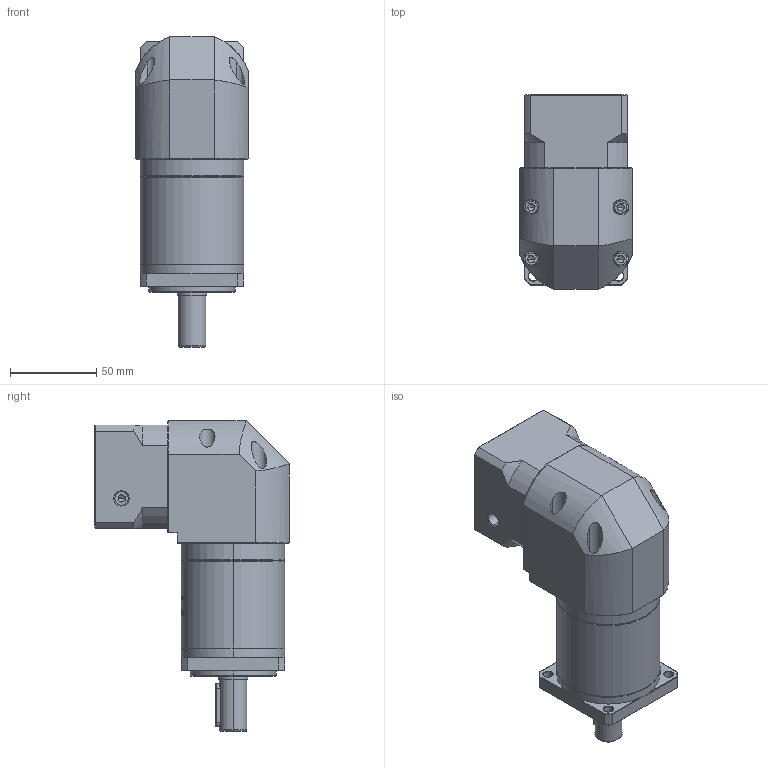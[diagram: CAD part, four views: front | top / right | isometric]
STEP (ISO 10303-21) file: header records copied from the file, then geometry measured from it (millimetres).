
FILE_DESCRIPTION (( 'STEP AP214' ), '1' );
FILE_NAME ('ZFR060-D16-L2-P2-8-30-46-M4.step', '2023-08-17T03:35:26', ( '' ), ( '' ), 'SwSTEP 2.0', 'SolidWorks 2016', '' );
FILE_SCHEMA (( 'AUTOMOTIVE_DESIGN' ));
Length unit declared in the file: millimetre
Products named in the file (1): ZFR060-D16-L2-P2-8-30-46-M4
Bounding box: 65 x 112.7 x 180 mm (x, y, z)
Volume: 595233.9 mm3; surface area: 83585.2 mm2
Topology: 5 solids, 6 shells, 1966 faces, 5287 edges, 3423 vertices
Faces by surface type: plane 845, bspline 418, cylinder 391, cone 288, torus 24
Entity records: 124162 total; most frequent: CARTESIAN_POINT 57914, ORIENTED_EDGE 10546, DIRECTION 7643, EDGE_CURVE 5273, VERTEX_POINT 3423, LINE 2593, VECTOR 2593, AXIS2_PLACEMENT_3D 2525
